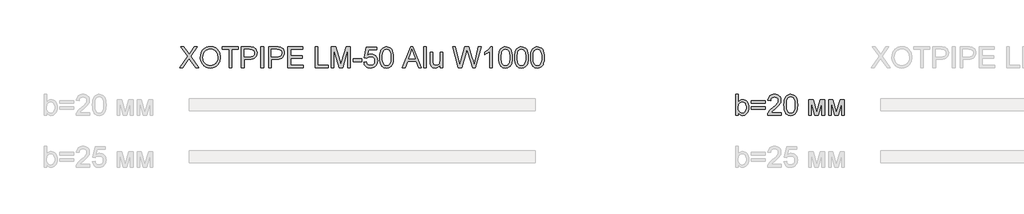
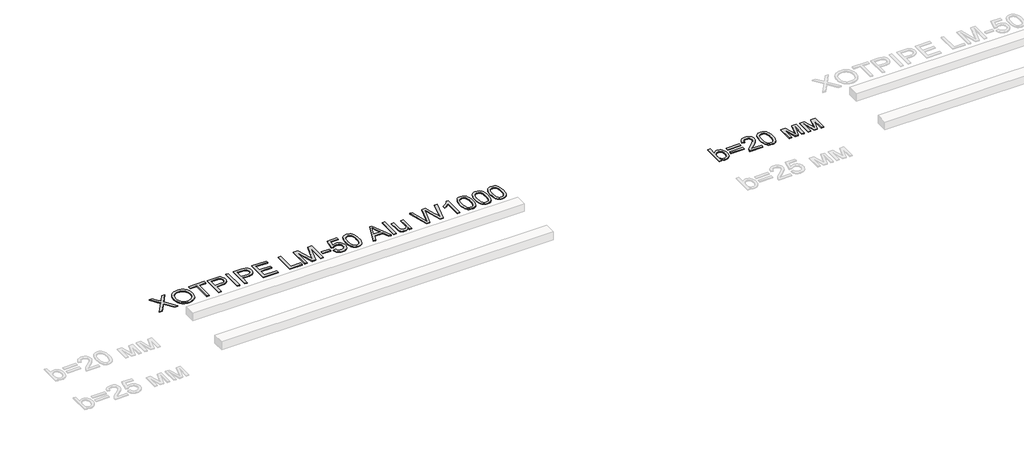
# One storey, part 85 of 86: 2 proxies.
"""IFC4 building model written with IfcOpenShell, lengths in millimetres."""

import ifcopenshell
import ifcopenshell.guid

model = None  # the IFC model being written
_history = None  # IfcOwnerHistory: only IFC2X3 demands one
_inside = {}  # id of a spatial element -> (the spatial element, [elements in it])
_under = {}  # id of a project, library or spatial element -> (it, [spatial elements below it])
_declared = {}  # id of a project -> (the project, [libraries it declares])
_typed = {}  # id of a type object -> (the type object, [elements of that type])
_made_of = {}  # id of a material, layer set ... -> (it, [elements and type objects made of it])


def new_model(schema):
    """Start an empty IFC model of exactly this schema.

    Asked for "IFC4X3", IfcOpenShell would pick the latest addendum, in which some entities
    have other attributes; the version numbers below select the first issue.
    IFC2X3 requires an IfcOwnerHistory on every rooted entity: one is made here for all.
    """
    global model, _history
    if schema == "IFC4X3":
        model = ifcopenshell.file(schema_version=(4, 3, 0, 0))
    else:
        model = ifcopenshell.file(schema=schema)
    _inside.clear()
    _under.clear()
    _declared.clear()
    _typed.clear()
    _made_of.clear()
    _history = None
    if model.schema == "IFC2X3":
        org = make("IfcOrganization", Name="unknown")
        user = make(
            "IfcPersonAndOrganization",
            ThePerson=make("IfcPerson", FamilyName="unknown"),
            TheOrganization=org,
        )
        app = make(
            "IfcApplication",
            ApplicationDeveloper=org,
            Version="unknown",
            ApplicationFullName="unknown",
            ApplicationIdentifier="unknown",
        )
        _history = make(
            "IfcOwnerHistory",
            OwningUser=user,
            OwningApplication=app,
            ChangeAction="ADDED",
            CreationDate=0,
        )
    return model


def make(cls, **values):
    """One entity of the class cls with the attributes given. An attribute that is None is left unset."""
    return model.create_entity(
        cls, **{name: value for name, value in values.items() if value is not None}
    )


def rooted(cls, **values):
    """An entity with a GlobalId (a new one), such as an element, a storey or a relation."""
    return make(cls, GlobalId=ifcopenshell.guid.new(), OwnerHistory=_history, **values)


def si_unit(unit_type, name, prefix=None):
    """IfcSIUnit, for example si_unit("LENGTHUNIT", "METRE", prefix="MILLI")."""
    return make("IfcSIUnit", UnitType=unit_type, Prefix=prefix, Name=name)


def assignment(units):
    """IfcUnitAssignment: the units of a project."""
    return None if units is None else make("IfcUnitAssignment", Units=units)


def point(xyz):
    """IfcCartesianPoint."""
    return None if xyz is None else make("IfcCartesianPoint", Coordinates=xyz)


def direction(xyz):
    """IfcDirection."""
    return None if xyz is None else make("IfcDirection", DirectionRatios=xyz)


def frame(location, z_axis=None, x_axis=None):
    """IfcAxis2Placement3D, a coordinate frame: its origin and axes. An axis left out is left unset."""
    return make(
        "IfcAxis2Placement3D",
        Location=point(location),
        Axis=direction(z_axis),
        RefDirection=direction(x_axis),
    )


def origin():
    """The frame at (0, 0, 0) with its axes left unset."""
    return frame((0.0, 0.0, 0.0))


def origin_with_axes():
    """The frame at (0, 0, 0) with the z axis (0, 0, 1) and the x axis (1, 0, 0) written out."""
    return frame((0.0, 0.0, 0.0), z_axis=(0.0, 0.0, 1.0), x_axis=(1.0, 0.0, 0.0))


def place(relative_to, where):
    """IfcLocalPlacement: puts the frame where relative to a parent placement (None: the world)."""
    return make(
        "IfcLocalPlacement", PlacementRelTo=relative_to, RelativePlacement=where
    )


def context(
    kind, dimensions, precision=None, world=None, true_north=None, identifier=None
):
    """IfcGeometricRepresentationContext, for example the 3D "Model" context."""
    return make(
        "IfcGeometricRepresentationContext",
        ContextIdentifier=identifier,
        ContextType=kind,
        CoordinateSpaceDimension=dimensions,
        Precision=precision,
        WorldCoordinateSystem=world,
        TrueNorth=true_north,
    )


def project(units=None, contexts=None):
    """IfcProject with its units and contexts."""
    return rooted(
        "IfcProject",
        Name="project",
        RepresentationContexts=contexts,
        UnitsInContext=assignment(units),
    )


def spatial(cls, under=None, at=None, **own):
    """A site, building, storey or space (cls), placed at a placement, below another one or the project."""
    s = rooted(cls, ObjectPlacement=at, **own)
    if under is not None:
        _under.setdefault(under.id(), (under, []))[1].append(s)
    return s


def polyline(points):
    """IfcPolyline through the points."""
    return make("IfcPolyline", Points=[point(p) for p in points])


def outline(outer, holes=None, kind="AREA"):
    """IfcArbitraryClosedProfileDef: a profile drawn as a closed curve; with holes, ...WithVoids."""
    if holes is None:
        return make("IfcArbitraryClosedProfileDef", ProfileType=kind, OuterCurve=outer)
    return make(
        "IfcArbitraryProfileDefWithVoids",
        ProfileType=kind,
        OuterCurve=outer,
        InnerCurves=holes,
    )


def extrude(swept, where, along, depth):
    """IfcExtrudedAreaSolid: the profile swept, set in the frame where, extruded along a direction by depth."""
    return make(
        "IfcExtrudedAreaSolid",
        SweptArea=swept,
        Position=where,
        ExtrudedDirection=direction(along),
        Depth=depth,
    )


def shape(context_of_items, identifier, shape_type, items):
    """IfcShapeRepresentation: the items that make up one representation, for example the "Body"."""
    return make(
        "IfcShapeRepresentation",
        ContextOfItems=context_of_items,
        RepresentationIdentifier=identifier,
        RepresentationType=shape_type,
        Items=items,
    )


def made_of(thing, what):
    """Note that an element or type object is made of a material, layer set ...; save() writes the relation."""
    if what is not None:
        _made_of.setdefault(what.id(), (what, []))[1].append(thing)
    return thing


def element(
    cls,
    number,
    at=None,
    inside=None,
    cuts=None,
    type_object=None,
    material=None,
    context=None,
    identifier="Body",
    shape_type=None,
    held_by="IfcProductDefinitionShape",
    body=None,
    shapes=None,
    **own,
):
    """One element of the class cls, such as IfcWall. Its Tag is "e" and its number.

    at: its placement. inside: the storey or other place that contains it. cuts: it is an
    opening in that element (IfcRelVoidsElement). A single representation is given by context,
    identifier, shape_type and body (its items); several are given by shapes. held_by: the class
    of the entity that holds the representations. save() writes the other relations.
    """
    e = rooted(cls, Tag="e%d" % number, ObjectPlacement=at, **own)
    if body is not None:
        shapes = [shape(context, identifier, shape_type, body)]
    if shapes is not None:
        e.Representation = make(held_by, Representations=shapes)
    if inside is not None:
        _inside.setdefault(inside.id(), (inside, []))[1].append(e)
    if cuts is not None:
        rooted(
            "IfcRelVoidsElement", RelatingBuildingElement=cuts, RelatedOpeningElement=e
        )
    if type_object is not None:
        _typed.setdefault(type_object.id(), (type_object, []))[1].append(e)
    return made_of(e, material)


def aggregate(whole, parts):
    """IfcRelAggregates: a whole, such as a stair, and the parts it consists of."""
    return rooted("IfcRelAggregates", RelatingObject=whole, RelatedObjects=parts)


def save(model, path):
    """Write the relations noted so far, then the file.

    IfcRelAggregates (storeys below a building ...), IfcRelContainedInSpatialStructure (elements
    in a storey), IfcRelDefinesByType, IfcRelAssociatesMaterial and IfcRelDeclares: one each for
    every whole, place, type object, material and project.
    """
    for whole, parts in _under.values():
        aggregate(whole, parts)
    for where, things in _inside.values():
        rooted(
            "IfcRelContainedInSpatialStructure",
            RelatedElements=things,
            RelatingStructure=where,
        )
    for kind, things in _typed.values():
        rooted("IfcRelDefinesByType", RelatedObjects=things, RelatingType=kind)
    for what, things in _made_of.values():
        rooted("IfcRelAssociatesMaterial", RelatedObjects=things, RelatingMaterial=what)
    for by, libraries in _declared.values():
        rooted("IfcRelDeclares", RelatingContext=by, RelatedDefinitions=libraries)
    model.write(path)


model = new_model("IFC4")

# Units and contexts
model_context = context("Model", 3, world=origin())
ifc_project = project(units=[si_unit("LENGTHUNIT", "METRE", prefix="MILLI")], contexts=[model_context])

# Site, building, storey
site = spatial("IfcSite", under=ifc_project)
building = spatial("IfcBuilding", under=site)
storey = spatial("IfcBuildingStorey", under=building, Name="Уровень 1", Elevation=0.0)

# Proxies
placement = place(None, origin())
element("IfcBuildingElementProxy", 1, Name="Текст модели 1", ObjectType="Текст модели 1", at=placement, inside=storey, context=model_context, shape_type="SweptSolid", body=[
    extrude(outline(polyline([(93609.6265465, 90543.2937088), (93841.9808146, 90871.7387541), (93647.2976628, 91146.0315697), (93737.6494808, 91146.0315697), (93847.2783154, 90991.6682845), (93873.4347252, 90952.5624284), (93884.2136677, 90931.4827901), (93927.4765903, 90992.6983541), (94035.9282025, 91146.0315697), (94127.6043957, 91146.0315697), (93932.9212438, 90870.8558373), (94165.275512, 90543.2937088), (94074.923694, 90543.2937088), (93920.1189504, 90761.6684611), (93887.8924876, 90806.9915229), (93852.4286633, 90757.2538772), (93701.3027397, 90543.2937088), (93609.6265465, 90543.2937088)])), origin_with_axes(), (0.0, 0.0, 1.0), 20.0),
    extrude(outline(polyline([(94212.3644074, 90836.7163882), (94217.3859966, 90907.4141106), (94232.4507643, 90970.000035), (94257.5587105, 91024.4741614), (94273.8788755, 91048.6693004), (94292.7098351, 91070.8364899), (94335.7980138, 91107.8546156), (94384.7171221, 91134.2961341), (94439.46716, 91150.1610451), (94500.0481276, 91155.4493488), (94540.5979205, 91152.9661453), (94579.1059684, 91145.5165349), (94615.5722711, 91133.1005176), (94649.9968288, 91115.7180933), (94681.4139512, 91093.8934939), (94708.8579481, 91068.1509513), (94732.3288194, 91038.4904655), (94751.8265651, 91004.9120363), (94767.1488502, 90968.1790191), (94778.0933396, 90929.0547689), (94784.6600332, 90887.5392858), (94786.848931, 90843.6325697), (94784.54507, 90799.1464394), (94777.6334871, 90757.0699362), (94766.1141821, 90717.4030601), (94749.9871551, 90680.145811), (94729.6340837, 90646.2822733), (94705.4366455, 90616.7965314), (94677.3948404, 90591.6885853), (94645.5086685, 90570.9584348), (94611.033527, 90554.7348388), (94575.2248133, 90543.146556), (94538.0825274, 90536.1935863), (94499.6066692, 90533.8759297), (94458.3487034, 90536.4373081), (94419.3348179, 90544.1214433), (94382.5650124, 90556.9283352), (94348.0392872, 90574.857984), (94316.658953, 90597.2160122), (94289.3253208, 90623.3080427), (94266.0383905, 90653.1340755), (94246.7981621, 90686.6941105), (94231.7333944, 90722.64078), (94220.9728461, 90759.6267161), (94214.516517, 90797.6519188), (94212.3644074, 90836.7163882)]), holes=[polyline([(94287.70664, 90835.9806242), (94291.4728319, 90786.0314463), (94302.7714077, 90741.6924688), (94321.6023673, 90702.9636918), (94347.9657108, 90669.8451151), (94380.0128311, 90643.3208233), (94415.8951212, 90624.3749005), (94455.6125811, 90613.0073469), (94499.1652108, 90609.2181623), (94543.4628016, 90613.0441351), (94583.649311, 90624.5220533), (94619.7247392, 90643.6519171), (94651.689086, 90670.4337263), (94677.8592914, 90704.2512787), (94696.5522953, 90744.488372), (94707.7680977, 90791.145006), (94711.5066984, 90844.2211809), (94709.9064118, 90878.7009209), (94705.1055517, 90910.9181866), (94697.1041183, 90940.872978), (94685.9021116, 90968.5652952), (94671.6236916, 90993.6318547), (94654.3930187, 91015.7093729), (94634.2100927, 91034.7978499), (94611.0749137, 91050.8972857), (94585.7048517, 91063.6765866), (94558.8172763, 91072.8046586), (94530.4121878, 91078.2815018), (94500.489586, 91080.1071162), (94458.449871, 91076.5892446), (94419.4451825, 91066.0356298), (94383.4755204, 91048.446272), (94350.5408848, 91023.8211709), (94323.0509027, 90990.9739073), (94303.4152012, 90948.7180616), (94291.6337803, 90897.0536339), (94287.70664, 90835.9806242)])]), origin_with_axes(), (0.0, 0.0, 1.0), 20.0),
    extrude(outline(polyline([(95041.1289661, 90543.2937088), (95041.1289661, 91070.6893371), (94843.3556055, 91070.6893371), (94843.3556055, 91146.0315697), (95314.2445593, 91146.0315697), (95314.2445593, 91070.6893371), (95116.4711987, 91070.6893371), (95116.4711987, 90543.2937088), (95041.1289661, 90543.2937088)])), origin_with_axes(), (0.0, 0.0, 1.0), 20.0),
    extrude(outline(polyline([(95399.004571, 90543.2937088), (95399.004571, 91146.0315697), (95622.3825185, 91146.0315697), (95674.4010326, 91144.5968299), (95712.4400309, 91140.2926106), (95752.5943507, 91129.5688504), (95785.6485479, 91112.1128497), (95812.2648103, 91087.1336623), (95833.1053253, 91053.8403417), (95846.5698063, 91014.5689387), (95851.0579667, 90971.655504), (95848.0275388, 90934.6557723), (95838.9362549, 90900.6174907), (95823.7841153, 90869.5406592), (95802.5711197, 90841.4252777), (95773.4486613, 90818.1199533), (95734.5681329, 90801.473293), (95685.9295346, 90791.4852968), (95627.5328664, 90788.1559648), (95474.3468036, 90788.1559648), (95474.3468036, 90543.2937088), (95399.004571, 90543.2937088)]), holes=[polyline([(95474.3468036, 90863.4981974), (95631.9474504, 90863.4981974), (95668.1838269, 90865.2272428), (95698.7548207, 90870.4143789), (95723.6604318, 90879.0596058), (95742.9006601, 90891.1629234), (95757.257255, 90906.4024351), (95767.5119656, 90924.456244), (95773.664792, 90945.3243502), (95775.7157341, 90969.0067536), (95770.8780858, 91002.8518972), (95756.3651411, 91031.39954), (95733.9795217, 91052.8838485), (95705.5238494, 91065.5389892), (95676.4611718, 91069.4017501), (95630.1816168, 91070.6893371), (95474.3468036, 91070.6893371), (95474.3468036, 90863.4981974)])]), origin_with_axes(), (0.0, 0.0, 1.0), 20.0),
    extrude(outline(polyline([(95964.0713156, 90543.2937088), (95964.0713156, 91146.0315697), (96039.4135482, 91146.0315697), (96039.4135482, 90543.2937088), (95964.0713156, 90543.2937088)])), origin_with_axes(), (0.0, 0.0, 1.0), 20.0),
    extrude(outline(polyline([(96190.0980134, 90543.2937088), (96190.0980134, 91146.0315697), (96413.4759609, 91146.0315697), (96465.494475, 91144.5968299), (96503.5334733, 91140.2926106), (96543.6877931, 91129.5688504), (96576.7419904, 91112.1128497), (96603.3582527, 91087.1336623), (96624.1987678, 91053.8403417), (96637.6632488, 91014.5689387), (96642.1514091, 90971.655504), (96639.1209812, 90934.6557723), (96630.0296974, 90900.6174907), (96614.8775577, 90869.5406592), (96593.6645622, 90841.4252777), (96564.5421037, 90818.1199533), (96525.6615753, 90801.473293), (96477.0229771, 90791.4852968), (96418.6263088, 90788.1559648), (96265.4402461, 90788.1559648), (96265.4402461, 90543.2937088), (96190.0980134, 90543.2937088)]), holes=[polyline([(96265.4402461, 90863.4981974), (96423.0408928, 90863.4981974), (96459.2772693, 90865.2272428), (96489.8482631, 90870.4143789), (96514.7538742, 90879.0596058), (96533.9941025, 90891.1629234), (96548.3506974, 90906.4024351), (96558.605408, 90924.456244), (96564.7582344, 90945.3243502), (96566.8091765, 90969.0067536), (96561.9715283, 91002.8518972), (96547.4585836, 91031.39954), (96525.0729642, 91052.8838485), (96496.6172918, 91065.5389892), (96467.5546142, 91069.4017501), (96421.2750592, 91070.6893371), (96265.4402461, 91070.6893371), (96265.4402461, 90863.4981974)])]), origin_with_axes(), (0.0, 0.0, 1.0), 20.0),
    extrude(outline(polyline([(96745.746979, 90543.2937088), (96745.746979, 91146.0315697), (97178.9648165, 91146.0315697), (97178.9648165, 91070.6893371), (96821.0892116, 91070.6893371), (96821.0892116, 90891.7515346), (97160.1292583, 90891.7515346), (97160.1292583, 90816.409302), (96821.0892116, 90816.409302), (96821.0892116, 90618.6359414), (97188.3825956, 90618.6359414), (97188.3825956, 90543.2937088), (96745.746979, 90543.2937088)])), origin_with_axes(), (0.0, 0.0, 1.0), 20.0),
    extrude(outline(polyline([(97536.8404214, 90543.2937088), (97536.8404214, 91146.0315697), (97612.182654, 91146.0315697), (97612.182654, 90618.6359414), (97913.5515844, 90618.6359414), (97913.5515844, 90543.2937088), (97536.8404214, 90543.2937088)])), origin_with_axes(), (0.0, 0.0, 1.0), 20.0),
    extrude(outline(polyline([(97998.3115961, 90543.2937088), (97998.3115961, 91146.0315697), (98127.9532112, 91146.0315697), (98251.267256, 90721.2014417), (98276.1360789, 90632.4683044), (98303.0650409, 90728.5590816), (98424.3189466, 91146.0315697), (98553.9605617, 91146.0315697), (98553.9605617, 90543.2937088), (98478.618329, 90543.2937088), (98478.618329, 91070.6893371), (98327.1980998, 90543.2937088), (98225.074058, 90543.2937088), (98073.6538288, 91070.6893371), (98073.6538288, 90543.2937088), (97998.3115961, 90543.2937088)])), origin_with_axes(), (0.0, 0.0, 1.0), 20.0),
    extrude(outline(polyline([(98638.7205733, 90722.2315113), (98638.7205733, 90797.5737439), (98874.1650503, 90797.5737439), (98874.1650503, 90722.2315113), (98638.7205733, 90722.2315113)])), origin_with_axes(), (0.0, 0.0, 1.0), 20.0),
    extrude(outline(polyline([(98940.0895038, 90703.3959531), (99015.4317364, 90712.8137322), (99021.0603309, 90688.5933013), (99029.2640994, 90667.5826409), (99040.0430419, 90649.7817508), (99053.3971583, 90635.1906312), (99069.2988575, 90623.8276761), (99087.7205485, 90615.7112795), (99108.662231, 90610.8414416), (99132.1239053, 90609.2181623), (99160.8187009, 90611.4760381), (99186.1289822, 90618.2496653), (99208.0547491, 90629.539044), (99226.5960016, 90645.3441743), (99241.3388726, 90664.8833067), (99251.8694947, 90687.3746922), (99258.187868, 90712.8183307), (99260.2939924, 90741.2142222), (99258.3212252, 90768.0512138), (99252.4029236, 90791.9083611), (99242.5390876, 90812.7856644), (99228.7297172, 90830.6831234), (99210.9288272, 90845.0397183), (99189.0904322, 90855.2944289), (99163.2145324, 90861.4472553), (99133.3011277, 90863.4981974), (99096.7520514, 90860.2240476), (99067.1559449, 90850.4015984), (99043.5195267, 90835.3552248), (99024.8495155, 90816.409302), (98949.5072829, 90825.8270811), (99015.4317364, 91136.6137906), (99307.3828878, 91136.6137906), (99307.3828878, 91061.271558), (99076.3529948, 91061.271558), (99044.126532, 90895.2832018), (99070.7152032, 90914.3394891), (99097.9476679, 90927.951123), (99125.8239261, 90936.1181032), (99154.3439778, 90938.84043), (99191.0356083, 90935.4651127), (99224.7381976, 90925.3391608), (99255.4517456, 90908.4625743), (99283.1762525, 90884.8353531), (99306.1274905, 90855.9014342), (99322.5212319, 90823.1047543), (99332.3574767, 90786.4453135), (99335.636225, 90745.9231117), (99332.683972, 90706.8908321), (99323.827213, 90670.5808791), (99309.0659479, 90636.993253), (99288.4001768, 90606.1279536), (99257.093419, 90574.5176931), (99220.5627369, 90551.9389357), (99178.8081305, 90538.3916812), (99131.8295997, 90533.8759297), (99092.9490713, 90536.777599), (99057.8301363, 90545.4826067), (99026.4727948, 90559.9909529), (98998.8770466, 90580.3026375), (98975.9166116, 90605.4059852), (98958.4652095, 90634.2893203), (98946.5228402, 90666.952643), (98940.0895038, 90703.3959531)])), origin_with_axes(), (0.0, 0.0, 1.0), 20.0),
    extrude(outline(polyline([(99401.5606785, 90839.8065969), (99407.0973026, 90936.2836501), (99414.0180826, 90977.1967265), (99423.7071747, 91013.2261694), (99436.123192, 91044.6662845), (99451.2247479, 91071.8113772), (99469.0118424, 91094.6614476), (99489.4844754, 91113.2164957), (99512.7116249, 91127.5730906), (99538.7622686, 91137.8278012), (99567.6364067, 91143.9806276), (99599.3340391, 91146.0315697), (99645.7607469, 91141.1755274), (99687.3314124, 91126.6074004), (99722.0962609, 91102.8974058), (99748.105518, 91070.6157607), (99767.7504165, 91030.0383766), (99783.4221895, 90981.4411651), (99793.6860972, 90919.7289604), (99797.1073998, 90839.8065969), (99791.625958, 90743.8813667), (99784.7741559, 90703.106246), (99775.1816328, 90667.1227884), (99762.8621845, 90635.6688778), (99747.8296065, 90608.4823983), (99730.0838988, 90585.56335), (99709.6250613, 90566.9117329), (99686.3703207, 90552.458569), (99660.2369034, 90542.1348805), (99631.2248096, 90535.9406674), (99599.3340391, 90533.8759297), (99557.8369501, 90537.4627792), (99521.0487506, 90548.2233275), (99488.9694406, 90566.1575748), (99461.5990202, 90591.265521), (99435.3322457, 90636.6529621), (99416.5702639, 90693.2056218), (99405.3130749, 90760.9235001), (99401.5606785, 90839.8065969)]), holes=[polyline([(99476.9029112, 90839.9537497), (99479.1102031, 90774.456959), (99485.732079, 90721.440565), (99496.7685389, 90680.9045676), (99512.2195827, 90652.848967), (99530.907988, 90633.7604899), (99551.6565326, 90620.1258635), (99574.4652163, 90611.9450876), (99599.3340391, 90609.2181623), (99624.202862, 90611.9542847), (99647.0115457, 90620.1626517), (99667.7600903, 90633.8432634), (99686.4484956, 90652.9961198), (99701.8995394, 90681.0977057), (99712.9359993, 90721.624506), (99719.5578752, 90774.5765206), (99721.7651671, 90839.9537497), (99719.6314516, 90903.7168965), (99713.2303049, 90955.79979), (99702.561727, 90996.2024301), (99687.625718, 91024.9248169), (99669.2500123, 91044.9467945), (99648.2623445, 91059.248207), (99624.6627145, 91067.8290546), (99598.4511224, 91070.6893371), (99573.7110582, 91068.1693454), (99551.2886506, 91060.6093704), (99531.1838995, 91048.0094121), (99513.3968051, 91030.3694704), (99497.4307265, 90999.0995008), (99486.0263846, 90956.9402242), (99479.1837795, 90903.8916405), (99476.9029112, 90839.9537497)])]), origin_with_axes(), (0.0, 0.0, 1.0), 20.0),
    extrude(outline(polyline([(100056.5377828, 90543.2937088), (100297.1326076, 91146.0315697), (100361.2912276, 91146.0315697), (100601.8860524, 90543.2937088), (100522.2763886, 90543.2937088), (100453.2617264, 90731.6492903), (100205.014956, 90731.6492903), (100136.1474465, 90543.2937088), (100056.5377828, 90543.2937088)]), holes=[polyline([(100232.679682, 90806.9915229), (100425.7441531, 90806.9915229), (100371.4447706, 90955.1743906), (100329.2119176, 91070.6893371), (100291.6879541, 90968.1238368), (100232.679682, 90806.9915229)])]), origin_with_axes(), (0.0, 0.0, 1.0), 20.0),
    extrude(outline(polyline([(100672.9608539, 90543.2937088), (100672.9608539, 91146.0315697), (100748.3030865, 91146.0315697), (100748.3030865, 90543.2937088), (100672.9608539, 90543.2937088)])), origin_with_axes(), (0.0, 0.0, 1.0), 20.0),
    extrude(outline(polyline([(101143.8498077, 90543.2937088), (101143.8498077, 90619.3717054), (101116.5897519, 90581.9673035), (101084.8415357, 90555.2498736), (101048.6051591, 90539.2194157), (101007.8806223, 90533.8759297), (100971.1843933, 90537.6283261), (100937.02655, 90548.8855151), (100908.3685426, 90565.8080869), (100888.1718211, 90586.5566314), (100874.5785813, 90611.7565481), (100865.7310193, 90642.0332363), (100861.3164354, 90712.0779682), (100861.3164354, 90985.9293254), (100936.658668, 90985.9293254), (100936.658668, 90747.5417925), (100937.7991022, 90699.8642859), (100941.2204048, 90670.7280319), (100952.2016823, 90645.105051), (100971.0188464, 90625.6256993), (100996.4210981, 90613.3200466), (101027.1576388, 90609.2181623), (101059.6600131, 90613.4120171), (101090.06546, 90625.9935813), (101115.136618, 90645.8040268), (101131.6361255, 90671.6845251), (101140.7963871, 90707.1299554), (101143.8498077, 90755.6351964), (101143.8498077, 90985.9293254), (101219.1920403, 90985.9293254), (101219.1920403, 90543.2937088), (101143.8498077, 90543.2937088)])), origin_with_axes(), (0.0, 0.0, 1.0), 20.0),
    extrude(outline(polyline([(101675.5128671, 90543.2937088), (101511.1431917, 91146.0315697), (101588.8398691, 91146.0315697), (101684.1948822, 90749.8962373), (101713.6254418, 90627.6122621), (101745.1161406, 90735.7695687), (101864.6042126, 91146.0315697), (101976.587492, 91146.0315697), (102063.4076428, 90848.6357648), (102100.6005126, 90738.2711662), (102128.0077212, 90627.6122621), (102156.555364, 90746.3645701), (102252.793294, 91146.0315697), (102330.4899713, 91146.0315697), (102165.9731431, 90543.2937088), (102085.4805626, 90543.2937088), (101940.9765148, 91008.2965507), (101920.8165815, 91073.1909347), (101898.1550506, 90995.0527989), (101766.4532963, 90543.2937088), (101675.5128671, 90543.2937088)])), origin_with_axes(), (0.0, 0.0, 1.0), 20.0),
    extrude(outline(polyline([(102660.112239, 90543.2937088), (102584.7700064, 90543.2937088), (102584.7700064, 91013.0054402), (102553.3160958, 90987.5664003), (102513.4008993, 90962.1641485), (102471.4991401, 90939.9624701), (102434.0855412, 90924.1251502), (102434.0855412, 90995.3471045), (102493.2593601, 91027.5367791), (102544.5237161, 91065.8332947), (102584.9355533, 91106.5578316), (102611.5518157, 91146.0315697), (102660.112239, 91146.0315697), (102660.112239, 90543.2937088)])), origin_with_axes(), (0.0, 0.0, 1.0), 20.0),
    extrude(outline(polyline([(102839.0500415, 90839.8065969), (102844.5866655, 90936.2836501), (102851.5074455, 90977.1967265), (102861.1965376, 91013.2261694), (102873.6125549, 91044.6662845), (102888.7141108, 91071.8113772), (102906.5012053, 91094.6614476), (102926.9738383, 91113.2164957), (102950.2009878, 91127.5730906), (102976.2516316, 91137.8278012), (103005.1257697, 91143.9806276), (103036.8234021, 91146.0315697), (103083.2501099, 91141.1755274), (103124.8207753, 91126.6074004), (103159.5856239, 91102.8974058), (103185.5948809, 91070.6157607), (103205.2397795, 91030.0383766), (103220.9115525, 90981.4411651), (103231.1754601, 90919.7289604), (103234.5967627, 90839.8065969), (103229.115321, 90743.8813667), (103222.2635188, 90703.106246), (103212.6709958, 90667.1227884), (103200.3515475, 90635.6688778), (103185.3189694, 90608.4823983), (103167.5732617, 90585.56335), (103147.1144242, 90566.9117329), (103123.8596836, 90552.458569), (103097.7262664, 90542.1348805), (103068.7141725, 90535.9406674), (103036.8234021, 90533.8759297), (102995.326313, 90537.4627792), (102958.5381135, 90548.2233275), (102926.4588035, 90566.1575748), (102899.0883831, 90591.265521), (102872.8216086, 90636.6529621), (102854.0596269, 90693.2056218), (102842.8024378, 90760.9235001), (102839.0500415, 90839.8065969)]), holes=[polyline([(102914.3922741, 90839.9537497), (102916.5995661, 90774.456959), (102923.221442, 90721.440565), (102934.2579018, 90680.9045676), (102949.7089456, 90652.848967), (102968.397351, 90633.7604899), (102989.1458955, 90620.1258635), (103011.9545792, 90611.9450876), (103036.8234021, 90609.2181623), (103061.692225, 90611.9542847), (103084.5009087, 90620.1626517), (103105.2494532, 90633.8432634), (103123.9378585, 90652.9961198), (103139.3889023, 90681.0977057), (103150.4253622, 90721.624506), (103157.0472381, 90774.5765206), (103159.2545301, 90839.9537497), (103157.1208145, 90903.7168965), (103150.7196678, 90955.79979), (103140.0510899, 90996.2024301), (103125.1150809, 91024.9248169), (103106.7393753, 91044.9467945), (103085.7517074, 91059.248207), (103062.1520774, 91067.8290546), (103035.9404853, 91070.6893371), (103011.2004211, 91068.1693454), (102988.7780135, 91060.6093704), (102968.6732625, 91048.0094121), (102950.886168, 91030.3694704), (102934.9200894, 90999.0995008), (102923.5157476, 90956.9402242), (102916.6731425, 90903.8916405), (102914.3922741, 90839.9537497)])]), origin_with_axes(), (0.0, 0.0, 1.0), 20.0),
    extrude(outline(polyline([(103300.5212162, 90839.8065969), (103306.0578402, 90936.2836501), (103312.9786203, 90977.1967265), (103322.6677123, 91013.2261694), (103335.0837297, 91044.6662845), (103350.1852856, 91071.8113772), (103367.97238, 91094.6614476), (103388.4450131, 91113.2164957), (103411.6721625, 91127.5730906), (103437.7228063, 91137.8278012), (103466.5969444, 91143.9806276), (103498.2945768, 91146.0315697), (103544.7212846, 91141.1755274), (103586.2919501, 91126.6074004), (103621.0567986, 91102.8974058), (103647.0660557, 91070.6157607), (103666.7109542, 91030.0383766), (103682.3827272, 90981.4411651), (103692.6466349, 90919.7289604), (103696.0679374, 90839.8065969), (103690.5864957, 90743.8813667), (103683.7346935, 90703.106246), (103674.1421705, 90667.1227884), (103661.8227222, 90635.6688778), (103646.7901442, 90608.4823983), (103629.0444364, 90585.56335), (103608.585599, 90566.9117329), (103585.3308584, 90552.458569), (103559.1974411, 90542.1348805), (103530.1853473, 90535.9406674), (103498.2945768, 90533.8759297), (103456.7974878, 90537.4627792), (103420.0092883, 90548.2233275), (103387.9299783, 90566.1575748), (103360.5595578, 90591.265521), (103334.2927834, 90636.6529621), (103315.5308016, 90693.2056218), (103304.2736126, 90760.9235001), (103300.5212162, 90839.8065969)]), holes=[polyline([(103375.8634488, 90839.9537497), (103378.0707408, 90774.456959), (103384.6926167, 90721.440565), (103395.7290766, 90680.9045676), (103411.1801204, 90652.848967), (103429.8685257, 90633.7604899), (103450.6170703, 90620.1258635), (103473.425754, 90611.9450876), (103498.2945768, 90609.2181623), (103523.1633997, 90611.9542847), (103545.9720834, 90620.1626517), (103566.7206279, 90633.8432634), (103585.4090333, 90652.9961198), (103600.8600771, 90681.0977057), (103611.8965369, 90721.624506), (103618.5184129, 90774.5765206), (103620.7257048, 90839.9537497), (103618.5919893, 90903.7168965), (103612.1908425, 90955.79979), (103601.5222647, 90996.2024301), (103586.5862557, 91024.9248169), (103568.21055, 91044.9467945), (103547.2228822, 91059.248207), (103523.6232522, 91067.8290546), (103497.41166, 91070.6893371), (103472.6715959, 91068.1693454), (103450.2491883, 91060.6093704), (103430.1444372, 91048.0094121), (103412.3573428, 91030.3694704), (103396.3912642, 90999.0995008), (103384.9869223, 90956.9402242), (103378.1443172, 90903.8916405), (103375.8634488, 90839.9537497)])]), origin_with_axes(), (0.0, 0.0, 1.0), 20.0),
    extrude(outline(polyline([(103761.992391, 90839.8065969), (103767.529015, 90936.2836501), (103774.449795, 90977.1967265), (103784.1388871, 91013.2261694), (103796.5549044, 91044.6662845), (103811.6564603, 91071.8113772), (103829.4435548, 91094.6614476), (103849.9161878, 91113.2164957), (103873.1433373, 91127.5730906), (103899.1939811, 91137.8278012), (103928.0681192, 91143.9806276), (103959.7657516, 91146.0315697), (104006.1924594, 91141.1755274), (104047.7631248, 91126.6074004), (104082.5279734, 91102.8974058), (104108.5372304, 91070.6157607), (104128.182129, 91030.0383766), (104143.853902, 90981.4411651), (104154.1178096, 90919.7289604), (104157.5391122, 90839.8065969), (104152.0576705, 90743.8813667), (104145.2058683, 90703.106246), (104135.6133453, 90667.1227884), (104123.293897, 90635.6688778), (104108.2613189, 90608.4823983), (104090.5156112, 90585.56335), (104070.0567737, 90566.9117329), (104046.8020331, 90552.458569), (104020.6686159, 90542.1348805), (103991.656522, 90535.9406674), (103959.7657516, 90533.8759297), (103918.2686625, 90537.4627792), (103881.480463, 90548.2233275), (103849.401153, 90566.1575748), (103822.0307326, 90591.265521), (103795.7639581, 90636.6529621), (103777.0019764, 90693.2056218), (103765.7447873, 90760.9235001), (103761.992391, 90839.8065969)]), holes=[polyline([(103837.3346236, 90839.9537497), (103839.5419156, 90774.456959), (103846.1637915, 90721.440565), (103857.2002513, 90680.9045676), (103872.6512951, 90652.848967), (103891.3397005, 90633.7604899), (103912.088245, 90620.1258635), (103934.8969287, 90611.9450876), (103959.7657516, 90609.2181623), (103984.6345745, 90611.9542847), (104007.4432582, 90620.1626517), (104028.1918027, 90633.8432634), (104046.880208, 90652.9961198), (104062.3312518, 90681.0977057), (104073.3677117, 90721.624506), (104079.9895876, 90774.5765206), (104082.1968796, 90839.9537497), (104080.063164, 90903.7168965), (104073.6620173, 90955.79979), (104062.9934394, 90996.2024301), (104048.0574304, 91024.9248169), (104029.6817248, 91044.9467945), (104008.6940569, 91059.248207), (103985.0944269, 91067.8290546), (103958.8828348, 91070.6893371), (103934.1427706, 91068.1693454), (103911.720363, 91060.6093704), (103891.615612, 91048.0094121), (103873.8285175, 91030.3694704), (103857.8624389, 90999.0995008), (103846.4580971, 90956.9402242), (103839.615492, 90903.8916405), (103837.3346236, 90839.9537497)])]), origin_with_axes(), (0.0, 0.0, 1.0), 20.0),
])
element("IfcBuildingElementProxy", 2, Name="Текст модели 1", ObjectType="Текст модели 1", at=placement, inside=storey, context=model_context, shape_type="SweptSolid", body=[
    extrude(outline(polyline([(109771.0068445, 89169.2937088), (109695.6646119, 89169.2937088), (109695.6646119, 89772.0315697), (109771.0068445, 89772.0315697), (109771.0068445, 89548.5064694), (109795.7836969, 89580.3742473), (109823.7611226, 89603.1369457), (109854.9391217, 89616.7945648), (109889.3176942, 89621.3471045), (109928.1292447, 89617.2452202), (109964.8070796, 89604.9395675), (109997.2542716, 89585.2026984), (110023.3738932, 89558.8071653), (110043.8465263, 89526.0104854), (110059.3527524, 89487.0701762), (110069.1200193, 89443.6049185), (110072.375775, 89397.233393), (110069.0050562, 89343.7249568), (110058.8928999, 89296.6544555), (110042.039306, 89256.0218892), (110018.4442745, 89221.8272577), (109990.1219594, 89194.7235517), (109959.0865146, 89175.3637617), (109925.33794, 89163.7478877), (109888.8762358, 89159.8759297), (109853.3664262, 89164.8699278), (109821.8849245, 89179.8519221), (109794.4317306, 89204.8219125), (109771.0068445, 89239.7798991), (109771.0068445, 89169.2937088)]), holes=[polyline([(109771.0068445, 89393.7017259), (109776.1571925, 89330.8674811), (109782.5951274, 89307.065516), (109791.6082363, 89288.3403224), (109809.8643803, 89265.0993774), (109831.0819744, 89248.4987024), (109855.2610185, 89238.5382973), (109882.4015127, 89235.2181623), (109904.9342849, 89237.6645776), (109925.8851645, 89245.0038234), (109945.2541516, 89257.2358997), (109963.041246, 89274.3608066), (109977.9128757, 89296.3325588), (109988.5354683, 89323.105171), (109994.9090239, 89354.6786432), (109997.0335424, 89391.0529755), (109994.9963958, 89428.1170865), (109988.8849562, 89459.9940614), (109978.6992234, 89486.6839001), (109964.4391976, 89508.1866028), (109947.2912981, 89524.7320955), (109928.4419444, 89536.5503046), (109907.8911364, 89543.64123), (109885.6388742, 89546.0048719), (109863.106102, 89543.5584566), (109842.1552224, 89536.2192108), (109822.7862354, 89523.9871344), (109804.9991409, 89506.8622276), (109790.1275112, 89485.1112046), (109779.5049186, 89459.00078), (109773.1313631, 89428.5309538), (109771.0068445, 89393.7017259)])]), origin_with_axes(), (0.0, 0.0, 1.0), 20.0),
    extrude(outline(polyline([(110543.2647288, 89517.7515346), (110147.7180076, 89517.7515346), (110147.7180076, 89593.0937672), (110543.2647288, 89593.0937672), (110543.2647288, 89517.7515346)])), origin_with_axes(), (0.0, 0.0, 1.0), 20.0),
    extrude(outline(polyline([(110543.2647288, 89338.8137322), (110147.7180076, 89338.8137322), (110147.7180076, 89414.1559648), (110543.2647288, 89414.1559648), (110543.2647288, 89338.8137322)])), origin_with_axes(), (0.0, 0.0, 1.0), 20.0),
    extrude(outline(polyline([(111014.1536826, 89244.6359414), (111014.1536826, 89169.2937088), (110618.6069614, 89169.2937088), (110620.2624304, 89195.8180007), (110626.7003653, 89221.2386465), (110645.2784061, 89261.8344247), (110672.4648855, 89301.2161923), (110711.7914708, 89342.4373698), (110766.7898291, 89388.5513779), (110848.09175, 89460.7666136), (110896.8729026, 89514.0727147), (110911.1007387, 89535.8513288), (110921.2634789, 89557.3356373), (110927.3611229, 89578.5256402), (110929.393671, 89599.4213376), (110927.4760861, 89619.0800317), (110921.7233314, 89637.1476362), (110912.1354069, 89653.624151), (110898.7123126, 89668.5095763), (110882.1990095, 89680.8382216), (110863.3404587, 89689.6443969), (110842.1366602, 89694.928102), (110818.587614, 89696.6893371), (110793.778572, 89694.9694888), (110771.5906891, 89689.8099438), (110752.0239655, 89681.2107021), (110735.0784011, 89669.1717638), (110721.3701983, 89654.0977991), (110711.5155593, 89636.3934781), (110705.5144843, 89616.0588008), (110703.3669731, 89593.0937672), (110628.0247405, 89602.5115463), (110634.5040621, 89641.4058703), (110646.2900816, 89675.3889696), (110663.3827988, 89704.4608442), (110685.7822137, 89728.6214943), (110712.9732917, 89747.6134023), (110744.4409979, 89761.1790508), (110780.1853322, 89769.31844), (110820.2062948, 89772.0315697), (110860.5859423, 89769.0149373), (110896.5234147, 89759.9650403), (110928.018712, 89744.8818785), (110955.0718342, 89723.7654519), (110976.7998646, 89698.1792592), (110992.3198862, 89669.6867986), (111001.6318992, 89638.2880703), (111004.7359036, 89603.9830743), (111001.3881774, 89567.9490329), (110991.3449989, 89532.5403908), (110973.5211163, 89496.5247435), (110946.8312775, 89458.6696862), (110904.2857248, 89413.4753831), (110838.8947001, 89355.4419984), (110752.2217021, 89282.9692453), (110718.2294057, 89244.6359414), (111014.1536826, 89244.6359414)])), origin_with_axes(), (0.0, 0.0, 1.0), 20.0),
    extrude(outline(polyline([(111089.4959153, 89465.8065969), (111095.0325393, 89562.2836501), (111101.9533193, 89603.1967265), (111111.6424114, 89639.2261694), (111124.0584287, 89670.6662845), (111139.1599846, 89697.8113772), (111156.9470791, 89720.6614476), (111177.4197121, 89739.2164957), (111200.6468616, 89753.5730906), (111226.6975054, 89763.8278012), (111255.5716435, 89769.9806276), (111287.2692759, 89772.0315697), (111333.6959837, 89767.1755274), (111375.2666491, 89752.6074004), (111410.0314977, 89728.8974058), (111436.0407547, 89696.6157607), (111455.6856533, 89656.0383766), (111471.3574262, 89607.4411651), (111481.6213339, 89545.7289604), (111485.0426365, 89465.8065969), (111479.5611947, 89369.8813667), (111472.7093926, 89329.106246), (111463.1168696, 89293.1227884), (111450.7974212, 89261.6688778), (111435.7648432, 89234.4823983), (111418.0191355, 89211.56335), (111397.560298, 89192.9117329), (111374.3055574, 89178.458569), (111348.1721402, 89168.1348805), (111319.1600463, 89161.9406674), (111287.2692759, 89159.8759297), (111245.7721868, 89163.4627792), (111208.9839873, 89174.2233275), (111176.9046773, 89192.1575748), (111149.5342569, 89217.265521), (111123.2674824, 89262.6529621), (111104.5055007, 89319.2056218), (111093.2483116, 89386.9235001), (111089.4959153, 89465.8065969)]), holes=[polyline([(111164.8381479, 89465.9537497), (111167.0454398, 89400.456959), (111173.6673158, 89347.440565), (111184.7037756, 89306.9045676), (111200.1548194, 89278.848967), (111218.8432248, 89259.7604899), (111239.5917693, 89246.1258635), (111262.400453, 89237.9450876), (111287.2692759, 89235.2181623), (111312.1380987, 89237.9542847), (111334.9467824, 89246.1626517), (111355.695327, 89259.8432634), (111374.3837323, 89278.9961198), (111389.8347761, 89307.0977057), (111400.871236, 89347.624506), (111407.4931119, 89400.5765206), (111409.7004039, 89465.9537497), (111407.5666883, 89529.7168965), (111401.1655416, 89581.79979), (111390.4969637, 89622.2024301), (111375.5609547, 89650.9248169), (111357.185249, 89670.9467945), (111336.1975812, 89685.248207), (111312.5979512, 89693.8290546), (111286.3863591, 89696.6893371), (111261.6462949, 89694.1693454), (111239.2238873, 89686.6093704), (111219.1191363, 89674.0094121), (111201.3320418, 89656.3694704), (111185.3659632, 89625.0995008), (111173.9616213, 89582.9402242), (111167.1190162, 89529.8916405), (111164.8381479, 89465.9537497)])]), origin_with_axes(), (0.0, 0.0, 1.0), 20.0),
    extrude(outline(polyline([(111805.2471251, 89611.9293254), (111934.8887402, 89611.9293254), (112034.8054901, 89257.5853876), (112142.5213382, 89611.9293254), (112266.7182998, 89611.9293254), (112266.7182998, 89169.2937088), (112191.3760672, 89169.2937088), (112191.3760672, 89525.6977857), (112083.0716078, 89169.2937088), (111984.1849275, 89169.2937088), (111880.5893577, 89542.7675103), (111880.5893577, 89169.2937088), (111805.2471251, 89169.2937088), (111805.2471251, 89611.9293254)])), origin_with_axes(), (0.0, 0.0, 1.0), 20.0),
    extrude(outline(polyline([(112379.7316487, 89611.9293254), (112509.3732638, 89611.9293254), (112609.2900137, 89257.5853876), (112717.0058619, 89611.9293254), (112841.2028235, 89611.9293254), (112841.2028235, 89169.2937088), (112765.8605909, 89169.2937088), (112765.8605909, 89525.6977857), (112657.5561315, 89169.2937088), (112558.6694512, 89169.2937088), (112455.0738813, 89542.7675103), (112455.0738813, 89169.2937088), (112379.7316487, 89169.2937088), (112379.7316487, 89611.9293254)])), origin_with_axes(), (0.0, 0.0, 1.0), 20.0),
])

save(model, "model.ifc")
